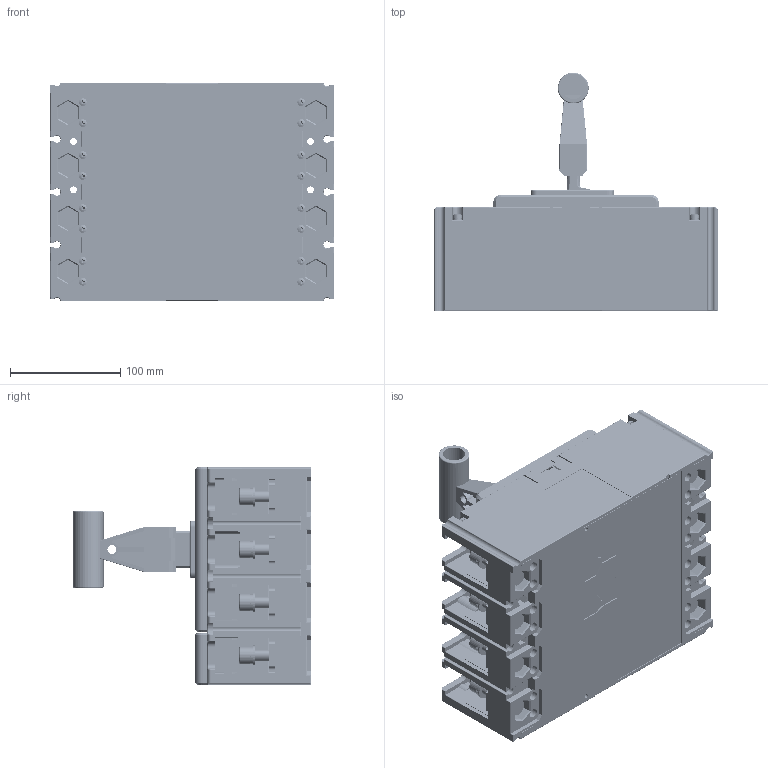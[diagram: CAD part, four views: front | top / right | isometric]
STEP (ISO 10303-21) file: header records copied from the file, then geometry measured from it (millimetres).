
FILE_DESCRIPTION((''),'2;1');
FILE_NAME('2DLX_258_122_1-96_ASM','2017-12-25T',('yan.shen'),(''),'PRO/ENGINEER BY PARAMETRIC TECHNOLOGY CORPORATION, 2015440','PRO/ENGINEER BY PARAMETRIC TECHNOLOGY CORPORATION, 2015440','');
FILE_SCHEMA(('CONFIG_CONTROL_DESIGN'));
Products named in the file (50): JZ-5DLX_024_272; GB_T809-M5X16; 5024027200_ASM; 85510339P01; 5DLX_551_722_ASM; 8585064800; 85510339P02; 85050244P03; 5DLX_510_127_ASM; 7010100507J_GB_T823_M4X12; 7090300401K_GB_T93_4; GB_T97_4-4; 5850007600_ASM; 8288064700_AF0; 8288064700_AF1; 8288064700_AF2; 8288064700_AF3; 8288064700_AF4; 8288064700_AF5; 8420028500; 6DLX_760_103_1-16_ASM; 8742105000; 8742103700; 8253201200; 8742104000; 7010600505_GB_T70_1_M10X35; 7090300701K_GB_T93_10; GB_T97_4_10; 5DLX_850_064_ASM; 8253057400; 8865077500_AF0; 8865077600_AF0; 5253021200_ASM; GZ_5DLX_315_429; GB_T809-M3X8; 5315042900_ASM; 8282201200_AF1; 8253201300; 5315043900_ASM; GB_T823-M5X35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
Assembly tree (111 placements, depth 4):
  2DLX_258_122_1-96_ASM
    6DLX_760_103_1-16_ASM
      5024027200_ASM
        JZ-5DLX_024_272
        GB_T809-M5X16  x10
      5DLX_551_722_ASM  x4
        85510339P01
      5DLX_510_127_ASM
        8585064800
        85510339P02
        85050244P03  x2
      5850007600_ASM  x16
        7010100507J_GB_T823_M4X12
        7090300401K_GB_T93_4
        GB_T97_4-4
      8288064700_AF0
      8288064700_AF1
      8288064700_AF2
      8288064700_AF3
      8288064700_AF4
      8288064700_AF5
      8420028500  x3
    8742105000  x4
    8742103700  x4
    8253201200
    8742104000
    5DLX_850_064_ASM  x8
      7010600505_GB_T70_1_M10X35
      7090300701K_GB_T93_10
      GB_T97_4_10
    5253021200_ASM
      8253057400
      8865077500_AF0
      8865077600_AF0
    5315043900_ASM
      5315042900_ASM
        GZ_5DLX_315_429
        GB_T809-M3X8  x6
      8282201200_AF1
      8253201300
    5850007400_ASM  x10
      GB_T823-M5X35
      7090300501K_GB_T93_5
      GB_T97_4_5
    8315058100
    8315058200
    5850007700_ASM  x6
      7010100305R01_GB_T823_M3X10
      7090300201_GB_T93_3
      GB_T97_4_3
Bounding box: 257 x 216.4 x 198 mm (x, y, z)
Volume: 1976537 mm3; surface area: 898133.2 mm2
Topology: 174 solids, 260 shells, 7847 faces, 19724 edges, 12535 vertices
Faces by surface type: plane 4271, cylinder 2401, cone 306, bspline 287, torus 230, extrusion 186, sphere 166
Entity records: 285742 total; most frequent: CARTESIAN_POINT 146981, ORIENTED_EDGE 29160, DIRECTION 27657, EDGE_CURVE 14658, VECTOR 10151, LINE 9965, VERTEX_POINT 9378, AXIS2_PLACEMENT_3D 8753
